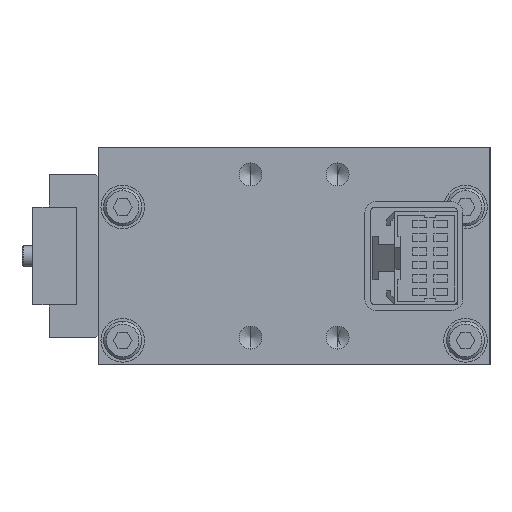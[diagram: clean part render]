
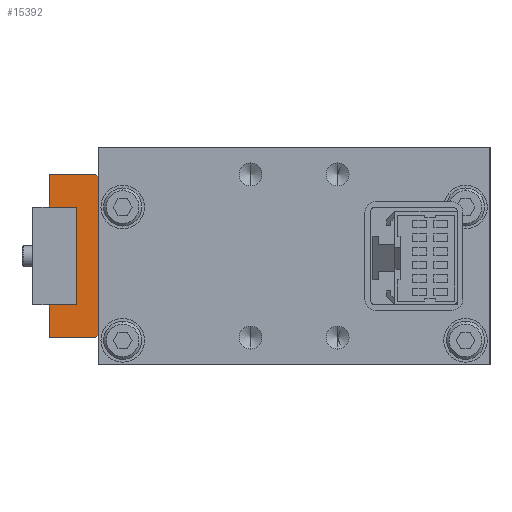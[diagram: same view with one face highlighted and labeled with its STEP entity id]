
A CAD part, left-side view. The second image highlights one B-rep face of the part: STEP entity #15392.
In plain terms, the highlighted planar face has unit normal (-1, 0, 0).
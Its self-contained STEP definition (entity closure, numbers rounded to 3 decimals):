
#2045 = CARTESIAN_POINT ( 'NONE',  ( -54.95, 72.5, 15. ) ) ;
#2063 = DIRECTION ( 'NONE',  ( 0., -0.707, -0.707 ) ) ;
#2064 = VECTOR ( 'NONE', #2063, 1000. ) ;
#2065 = CARTESIAN_POINT ( 'NONE',  ( -54.95, 72., 14.5 ) ) ;
#2067 = LINE ( 'NONE', #2065, #2064 ) ;
#2314 = CARTESIAN_POINT ( 'NONE',  ( -54.95, 72.5, -15. ) ) ;
#2316 = DIRECTION ( 'NONE',  ( 0., 0.707, -0.707 ) ) ;
#2317 = VECTOR ( 'NONE', #2316, 1000. ) ;
#2318 = CARTESIAN_POINT ( 'NONE',  ( -54.95, 72.5, -15. ) ) ;
#2323 = LINE ( 'NONE', #2318, #2317 ) ;
#2966 = VERTEX_POINT ( 'NONE', #18250 ) ;
#2985 = VERTEX_POINT ( 'NONE', #18297 ) ;
#2986 = EDGE_CURVE ( 'NONE', #2985, #2966, #18296, .T. ) ;
#5206 = CARTESIAN_POINT ( 'NONE',  ( -54.95, 76., -9. ) ) ;
#5225 = CARTESIAN_POINT ( 'NONE',  ( -54.95, 81., -15. ) ) ;
#5281 = LINE ( 'NONE', #5337, #5336 ) ;
#5335 = DIRECTION ( 'NONE',  ( 0., 1., 0. ) ) ;
#5336 = VECTOR ( 'NONE', #5335, 1000. ) ;
#5337 = CARTESIAN_POINT ( 'NONE',  ( -54.95, 72.5, -15. ) ) ;
#5656 = DIRECTION ( 'NONE',  ( 0., -1., 0. ) ) ;
#5657 = VECTOR ( 'NONE', #5656, 1000. ) ;
#5658 = CARTESIAN_POINT ( 'NONE',  ( -54.95, 81., -9. ) ) ;
#5659 = LINE ( 'NONE', #5658, #5657 ) ;
#5772 = DIRECTION ( 'NONE',  ( 0., 0., 1. ) ) ;
#5773 = VECTOR ( 'NONE', #5772, 1000. ) ;
#5774 = CARTESIAN_POINT ( 'NONE',  ( -54.95, 81., -15. ) ) ;
#5775 = LINE ( 'NONE', #5774, #5773 ) ;
#5776 = CARTESIAN_POINT ( 'NONE',  ( -54.95, 81., -9. ) ) ;
#5799 = LINE ( 'NONE', #5856, #5855 ) ;
#5821 = CARTESIAN_POINT ( 'NONE',  ( -54.95, 76., 9. ) ) ;
#5854 = DIRECTION ( 'NONE',  ( 0., 0., 1. ) ) ;
#5855 = VECTOR ( 'NONE', #5854, 1000. ) ;
#5856 = CARTESIAN_POINT ( 'NONE',  ( -54.95, 76., 9. ) ) ;
#5932 = CARTESIAN_POINT ( 'NONE',  ( -54.95, 81., 9. ) ) ;
#5937 = DIRECTION ( 'NONE',  ( 0., 1., 0. ) ) ;
#5938 = VECTOR ( 'NONE', #5937, 1000. ) ;
#5939 = CARTESIAN_POINT ( 'NONE',  ( -54.95, 81., 9. ) ) ;
#5940 = LINE ( 'NONE', #5939, #5938 ) ;
#5966 = DIRECTION ( 'NONE',  ( 0., -1., 0. ) ) ;
#5967 = VECTOR ( 'NONE', #5966, 1000. ) ;
#5968 = CARTESIAN_POINT ( 'NONE',  ( -54.95, 72.5, 15. ) ) ;
#5969 = LINE ( 'NONE', #5968, #5967 ) ;
#5988 = DIRECTION ( 'NONE',  ( 0., 0., 1. ) ) ;
#5989 = VECTOR ( 'NONE', #5988, 1000. ) ;
#5990 = CARTESIAN_POINT ( 'NONE',  ( -54.95, 81., 15. ) ) ;
#5991 = LINE ( 'NONE', #5990, #5989 ) ;
#5993 = CARTESIAN_POINT ( 'NONE',  ( -54.95, 81., 15. ) ) ;
#6103 = FACE_OUTER_BOUND ( 'NONE', #15380, .T. ) ;
#6136 = DIRECTION ( 'NONE',  ( 0., 0., -1. ) ) ;
#6137 = DIRECTION ( 'NONE',  ( 1., 0., 0. ) ) ;
#6138 = CARTESIAN_POINT ( 'NONE',  ( -54.95, 57.5, 0. ) ) ;
#6139 = AXIS2_PLACEMENT_3D ( 'NONE', #6138, #6137, #6136 ) ;
#6141 = PLANE ( 'NONE',  #6139 ) ;
#14207 = VERTEX_POINT ( 'NONE', #2045 ) ;
#14225 = EDGE_CURVE ( 'NONE', #14207, #2985, #2067, .T. ) ;
#14314 = EDGE_CURVE ( 'NONE', #2966, #14316, #2323, .T. ) ;
#14316 = VERTEX_POINT ( 'NONE', #2314 ) ;
#14548 = ORIENTED_EDGE ( 'NONE', *, *, #2986, .F. ) ;
#14561 = ORIENTED_EDGE ( 'NONE', *, *, #15142, .F. ) ;
#14563 = ORIENTED_EDGE ( 'NONE', *, *, #14314, .F. ) ;
#14594 = ORIENTED_EDGE ( 'NONE', *, *, #15286, .F. ) ;
#14605 = ORIENTED_EDGE ( 'NONE', *, *, #15225, .F. ) ;
#14612 = ORIENTED_EDGE ( 'NONE', *, *, #15296, .F. ) ;
#15107 = VERTEX_POINT ( 'NONE', #5206 ) ;
#15122 = VERTEX_POINT ( 'NONE', #5225 ) ;
#15142 = EDGE_CURVE ( 'NONE', #14316, #15122, #5281, .T. ) ;
#15225 = EDGE_CURVE ( 'NONE', #15285, #15107, #5659, .T. ) ;
#15285 = VERTEX_POINT ( 'NONE', #5776 ) ;
#15286 = EDGE_CURVE ( 'NONE', #15122, #15285, #5775, .T. ) ;
#15292 = VERTEX_POINT ( 'NONE', #5821 ) ;
#15296 = EDGE_CURVE ( 'NONE', #15107, #15292, #5799, .T. ) ;
#15323 = EDGE_CURVE ( 'NONE', #15292, #15326, #5940, .T. ) ;
#15326 = VERTEX_POINT ( 'NONE', #5932 ) ;
#15330 = EDGE_CURVE ( 'NONE', #15347, #14207, #5969, .T. ) ;
#15347 = VERTEX_POINT ( 'NONE', #5993 ) ;
#15348 = EDGE_CURVE ( 'NONE', #15326, #15347, #5991, .T. ) ;
#15374 = ORIENTED_EDGE ( 'NONE', *, *, #14225, .F. ) ;
#15375 = ORIENTED_EDGE ( 'NONE', *, *, #15330, .F. ) ;
#15377 = ORIENTED_EDGE ( 'NONE', *, *, #15323, .F. ) ;
#15378 = ORIENTED_EDGE ( 'NONE', *, *, #15348, .F. ) ;
#15380 = EDGE_LOOP ( 'NONE', ( #15374, #15375, #15378, #15377, #14612, #14605, #14594, #14561, #14563, #14548 ) ) ;
#15392 = ADVANCED_FACE ( 'NONE', ( #6103 ), #6141, .F. ) ;
#18250 = CARTESIAN_POINT ( 'NONE',  ( -54.95, 72., -14.5 ) ) ;
#18293 = DIRECTION ( 'NONE',  ( 0., 0., -1. ) ) ;
#18294 = VECTOR ( 'NONE', #18293, 1000. ) ;
#18295 = CARTESIAN_POINT ( 'NONE',  ( -54.95, 72., -14.5 ) ) ;
#18296 = LINE ( 'NONE', #18295, #18294 ) ;
#18297 = CARTESIAN_POINT ( 'NONE',  ( -54.95, 72., 14.5 ) ) ;
